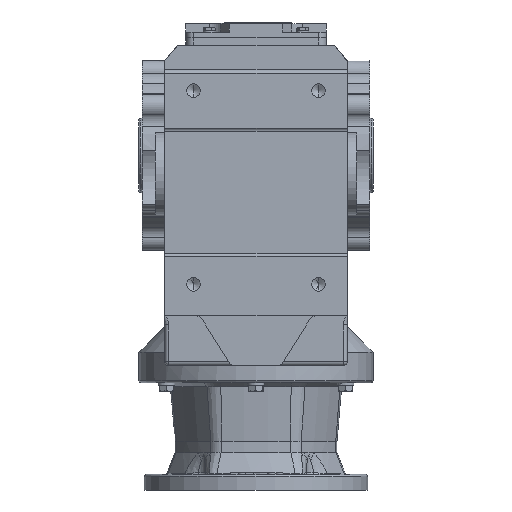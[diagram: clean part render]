
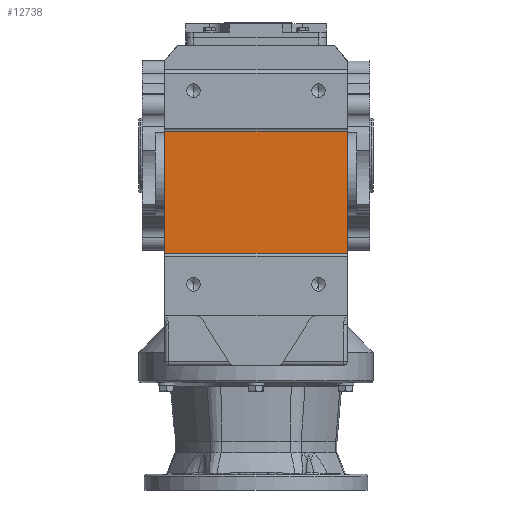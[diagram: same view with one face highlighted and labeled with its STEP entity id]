
A CAD part, front view. The second image highlights one B-rep face of the part: STEP entity #12738.
In plain terms, the highlighted planar face has unit normal (0, -1, 0).
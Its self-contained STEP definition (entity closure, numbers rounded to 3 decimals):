
#286 = CARTESIAN_POINT ( 'NONE',  ( 117., -260., -125. ) ) ;
#297 = CARTESIAN_POINT ( 'NONE',  ( -117., -260., -125. ) ) ;
#302 = CARTESIAN_POINT ( 'NONE',  ( 117., -260., 31. ) ) ;
#384 = CARTESIAN_POINT ( 'NONE',  ( -117., -260., 31. ) ) ;
#895 = VERTEX_POINT ( 'NONE', #286 ) ;
#906 = VERTEX_POINT ( 'NONE', #297 ) ;
#911 = VERTEX_POINT ( 'NONE', #302 ) ;
#993 = VERTEX_POINT ( 'NONE', #384 ) ;
#5082 = FACE_OUTER_BOUND ( 'NONE', #44973, .T. ) ;
#5815 = ORIENTED_EDGE ( 'NONE', *, *, #17432, .T. ) ;
#5816 = ORIENTED_EDGE ( 'NONE', *, *, #17431, .T. ) ;
#5817 = ORIENTED_EDGE ( 'NONE', *, *, #17429, .F. ) ;
#5818 = ORIENTED_EDGE ( 'NONE', *, *, #17424, .F. ) ;
#8425 = AXIS2_PLACEMENT_3D ( 'NONE', #19980, #19988, #19989 ) ;
#12738 = ADVANCED_FACE ( 'NONE', ( #5082 ), #19985, .T. ) ;
#17424 = EDGE_CURVE ( 'NONE', #993, #911, #30817, .T. ) ;
#17429 = EDGE_CURVE ( 'NONE', #906, #993, #30820, .T. ) ;
#17431 = EDGE_CURVE ( 'NONE', #906, #895, #30821, .T. ) ;
#17432 = EDGE_CURVE ( 'NONE', #895, #911, #30818, .T. ) ;
#19980 = CARTESIAN_POINT ( 'NONE',  ( -145., -260., 31. ) ) ;
#19985 = PLANE ( 'NONE',  #8425 ) ;
#19988 = DIRECTION ( 'NONE',  ( 0., -1., 0. ) ) ;
#19989 = DIRECTION ( 'NONE',  ( 0., 0., -1. ) ) ;
#30817 = LINE ( 'NONE', #39566, #30819 ) ;
#30818 = LINE ( 'NONE', #39575, #30826 ) ;
#30819 = VECTOR ( 'NONE', #39554, 1000. ) ;
#30820 = LINE ( 'NONE', #39573, #30822 ) ;
#30821 = LINE ( 'NONE', #39579, #30824 ) ;
#30822 = VECTOR ( 'NONE', #39569, 1000. ) ;
#30824 = VECTOR ( 'NONE', #39581, 1000. ) ;
#30826 = VECTOR ( 'NONE', #39582, 1000. ) ;
#39554 = DIRECTION ( 'NONE',  ( 1., 0., 0. ) ) ;
#39566 = CARTESIAN_POINT ( 'NONE',  ( -145., -260., 31. ) ) ;
#39569 = DIRECTION ( 'NONE',  ( 0., 0., 1. ) ) ;
#39573 = CARTESIAN_POINT ( 'NONE',  ( -117., -260., 31. ) ) ;
#39575 = CARTESIAN_POINT ( 'NONE',  ( 117., -260., 31. ) ) ;
#39579 = CARTESIAN_POINT ( 'NONE',  ( -145., -260., -125. ) ) ;
#39581 = DIRECTION ( 'NONE',  ( 1., 0., 0. ) ) ;
#39582 = DIRECTION ( 'NONE',  ( 0., 0., 1. ) ) ;
#44973 = EDGE_LOOP ( 'NONE', ( #5818, #5817, #5816, #5815 ) ) ;
